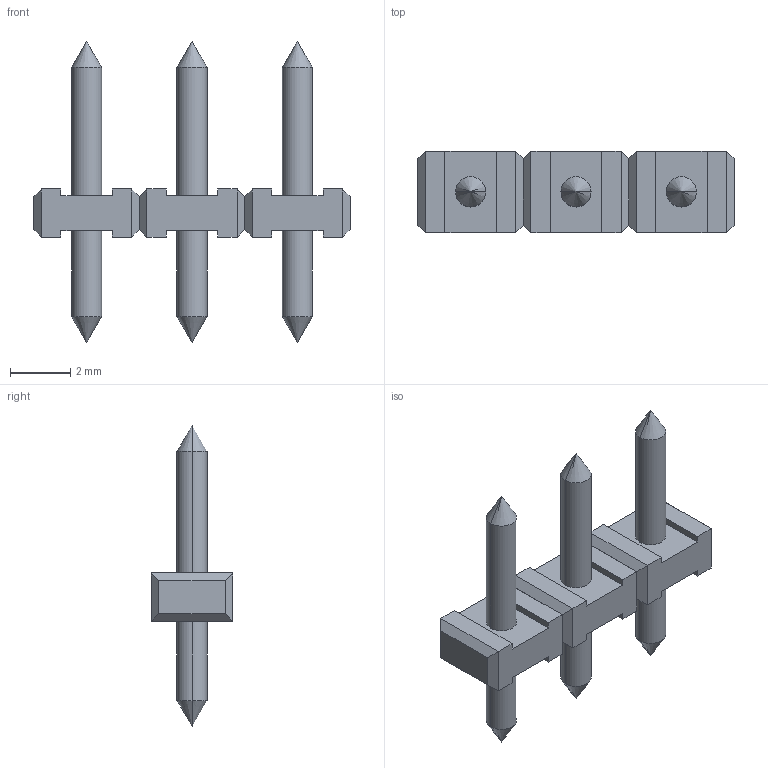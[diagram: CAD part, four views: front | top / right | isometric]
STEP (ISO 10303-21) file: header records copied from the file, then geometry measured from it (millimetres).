
FILE_DESCRIPTION((''),'2;1');
FILE_NAME('333','2019-04-11T',('zhenbing.lai'),(''),'CREO PARAMETRIC BY PTC INC, 2016260','CREO PARAMETRIC BY PTC INC, 2016260','');
FILE_SCHEMA(('CONFIG_CONTROL_DESIGN'));
Length unit declared in the file: millimetre
Products named in the file (1): 333
Bounding box: 10.5 x 2.7 x 10 mm (x, y, z)
Volume: 55.9 mm3; surface area: 172.7 mm2
Topology: 1 solids, 1 shells, 86 faces, 208 edges, 118 vertices
Faces by surface type: plane 62, cylinder 12, cone 12
Entity records: 2378 total; most frequent: CARTESIAN_POINT 400, DIRECTION 392, ORIENTED_EDGE 392, EDGE_CURVE 196, VECTOR 172, LINE 172, VERTEX_POINT 118, AXIS2_PLACEMENT_3D 110
